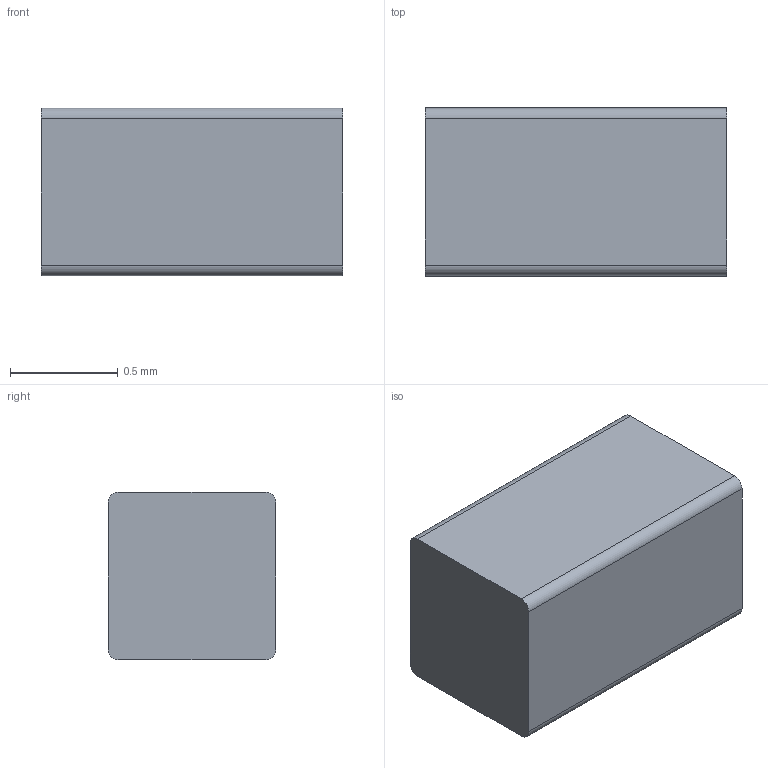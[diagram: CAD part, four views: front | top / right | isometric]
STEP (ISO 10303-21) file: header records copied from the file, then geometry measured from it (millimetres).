
FILE_DESCRIPTION(/* description */ ('STEP AP242 Edition 2','CAx-IF Rec.Pracs.---Representation and Presentation of Product Manufacturing Information (PMI)---4.0---2014-10-13','CAx-IF Rec.Pracs.---3D Tessellated Geometry---0.4---2014-09-14','2;1','CAx-IF Rec.Pracs.---User Defined Attributes---1.5---2016-08-15'),/* implementation_level */ '2;1');
FILE_NAME(/* name */ 'Drone Layout - Surface 402',/* time_stamp */ '2026-10-04T22:22:59Z',/* author */ (''),/* organization */ (''),/* preprocessor_version */ 'ST-DEVELOPER v20',/* originating_system */ 'ONSHAPE BY PTC INC, 1.221',/* authorisation */ ' ');
FILE_SCHEMA (('AP242_MANAGED_MODEL_BASED_3D_ENGINEERING_MIM_LF { 1 0 10303 442 3 1 4 }'));
Length unit declared in the file: metre
Products named in the file (1): CeramicBody (1):1__Body1
Bounding box: 1.4 x 0.78 x 0.78 mm (x, y, z)
Volume: 0.8 mm3; surface area: 5.5 mm2
Topology: 1 solids, 1 shells, 10 faces, 24 edges, 16 vertices
Faces by surface type: plane 6, cylinder 4
Entity records: 309 total; most frequent: DIRECTION 54, CARTESIAN_POINT 51, ORIENTED_EDGE 48, EDGE_CURVE 24, AXIS2_PLACEMENT_3D 19, VERTEX_POINT 16, LINE 16, VECTOR 16
